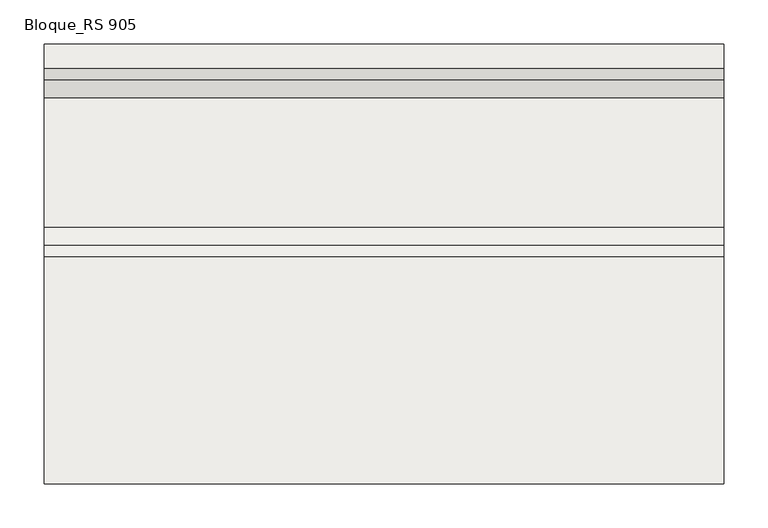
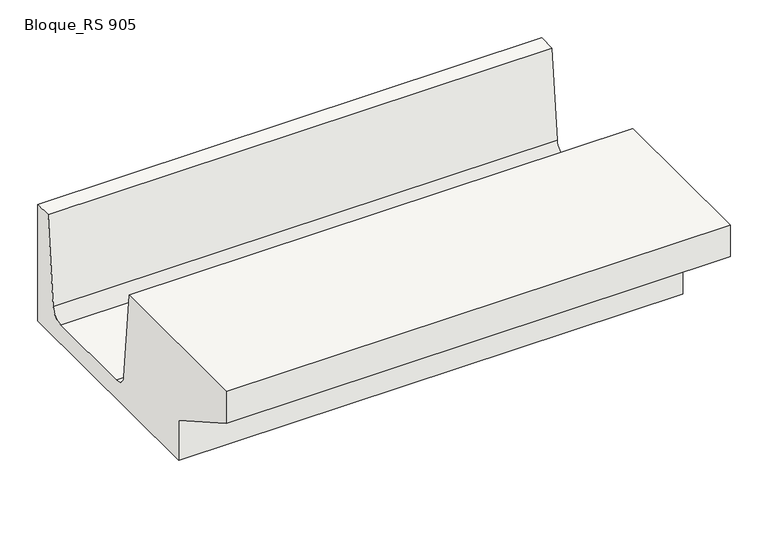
"""IFC4 building model written with IfcOpenShell, lengths in millimetres: slab geometry, ROSA GRES_RS 905 : Bloque_RS 905."""

from ifc_helpers import new_model, si_unit, point, frame, frame_2d, origin, place, context, project, spatial, polyline, circle_curve, trimmed, segment, composite_curve, outline, extrude, source, transform, mapped, element, save


def bloque_rs_905_dbcc2ae5(model_context):
    return source(origin(), model_context, "Body", "SweptSolid", [
        extrude(outline(composite_curve([segment(polyline([(12.836227, 188.7539108), (268.704852, 188.7539108), (282.2408556, 49.1487962)]), True, "CONTINUOUS"), segment(trimmed(circle_curve(frame_2d((301.8831862, 51.599206)), 19.7945866), [point((282.2408556, 49.1487962))], [point((302.2746005, 31.8084896))], True, "CARTESIAN"), True, "CONTINUOUS"), segment(polyline([(302.2746005, 31.8084896), (448.3978535, 31.8084896)]), True, "CONTINUOUS"), segment(trimmed(circle_curve(frame_2d((448.7892677, 51.599206)), 19.7945866), [point((448.3978535, 31.8084896))], [point((468.4315983, 49.1487962))], True, "CARTESIAN"), True, "CONTINUOUS"), segment(polyline([(468.4315983, 49.1487962), (481.967602, 188.7539108), (508.836227, 188.7539108), (508.836227, 1.7539108), (137.836227, 1.7539108), (137.836227, 66.7539108), (12.836227, 137.7539108), (12.836227, 188.7539108)]), True, "CONTINUOUS")], self_intersect=False)), frame((0.0, 0.0, 0.0), z_axis=(1.0, 0.0, 0.0), x_axis=(0.0, 1.0, 0.0)), (0.0, 0.0, 1.0), 766.2988646),
    ])


if __name__ == "__main__":
    model = new_model("IFC4")
    model_context = context("Model", 3, world=origin())
    ifc_project = project(units=[si_unit("LENGTHUNIT", "METRE", prefix="MILLI")], contexts=[model_context])
    site = spatial("IfcSite", under=ifc_project)
    building = spatial("IfcBuilding", under=site)
    placement = place(None, origin())
    bloque_rs_905_shape = bloque_rs_905_dbcc2ae5(model_context)
    element("IfcSlab", 1, ObjectType="ROSA GRES_RS 905 : Bloque_RS 905", at=placement, inside=building, context=model_context, shape_type="MappedRepresentation", body=[
        mapped(bloque_rs_905_shape, transform((0.0, 0.0, 0.0), x_axis=(1.0, 0.0, 0.0), y_axis=(0.0, 1.0, 0.0), z_axis=(0.0, 0.0, 1.0))),
    ])
    save(model, "model.ifc")
